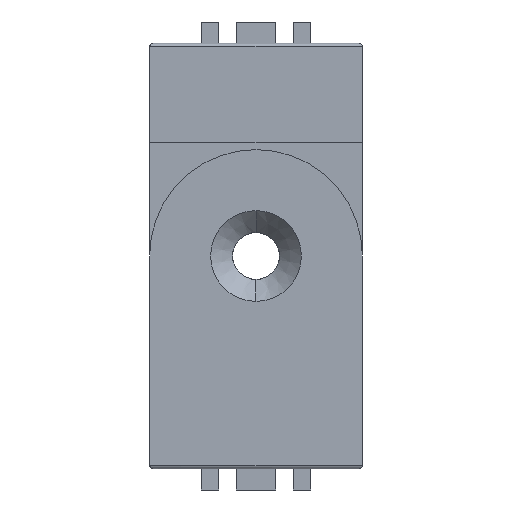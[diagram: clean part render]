
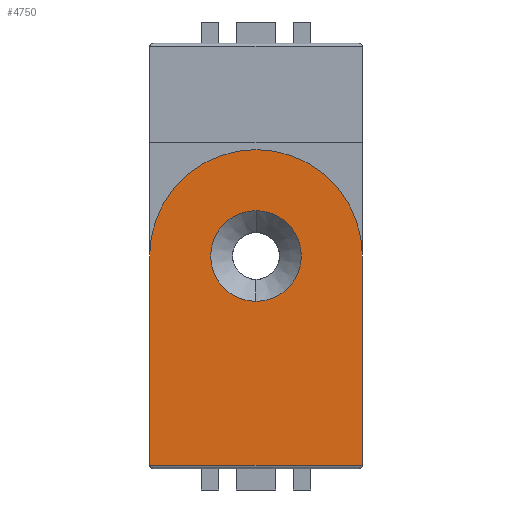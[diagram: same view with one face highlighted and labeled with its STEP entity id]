
A CAD part, left-side view. The second image highlights one B-rep face of the part: STEP entity #4750.
In plain terms, the highlighted planar face has unit normal (-1, 0, 0).
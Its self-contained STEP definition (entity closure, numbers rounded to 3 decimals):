
#95 = EDGE_CURVE ( 'NONE', #891, #4570, #1515, .T. ) ;
#219 = VECTOR ( 'NONE', #1197, 1000. ) ;
#226 = ORIENTED_EDGE ( 'NONE', *, *, #3434, .F. ) ;
#415 = CARTESIAN_POINT ( 'NONE',  ( -11.054, 0.764, 40.5 ) ) ;
#427 = DIRECTION ( 'NONE',  ( -1., 0., 0. ) ) ;
#441 = CARTESIAN_POINT ( 'NONE',  ( -11.054, -14.236, 11. ) ) ;
#479 = VERTEX_POINT ( 'NONE', #1235 ) ;
#510 = PLANE ( 'NONE',  #4383 ) ;
#554 = VERTEX_POINT ( 'NONE', #2904 ) ;
#632 = VERTEX_POINT ( 'NONE', #3201 ) ;
#891 = VERTEX_POINT ( 'NONE', #1680 ) ;
#965 = CARTESIAN_POINT ( 'NONE',  ( -11.054, 0.764, 40.5 ) ) ;
#1000 = CARTESIAN_POINT ( 'NONE',  ( -11.054, 0.764, 46.9 ) ) ;
#1197 = DIRECTION ( 'NONE',  ( 0., -1., 0. ) ) ;
#1235 = CARTESIAN_POINT ( 'NONE',  ( -11.054, 15.764, 40.5 ) ) ;
#1509 = VECTOR ( 'NONE', #3166, 1000. ) ;
#1515 = CIRCLE ( 'NONE', #4563, 6.4 ) ;
#1680 = CARTESIAN_POINT ( 'NONE',  ( -11.054, 0.764, 34.1 ) ) ;
#1751 = CARTESIAN_POINT ( 'NONE',  ( -11.054, -14.236, 11. ) ) ;
#1990 = EDGE_LOOP ( 'NONE', ( #3535, #4572, #2650, #226 ) ) ;
#2001 = ORIENTED_EDGE ( 'NONE', *, *, #2320, .F. ) ;
#2244 = EDGE_LOOP ( 'NONE', ( #2001, #2857 ) ) ;
#2303 = LINE ( 'NONE', #1751, #219 ) ;
#2320 = EDGE_CURVE ( 'NONE', #4570, #891, #2407, .T. ) ;
#2407 = CIRCLE ( 'NONE', #4260, 6.4 ) ;
#2650 = ORIENTED_EDGE ( 'NONE', *, *, #5144, .T. ) ;
#2765 = VECTOR ( 'NONE', #3323, 1000. ) ;
#2857 = ORIENTED_EDGE ( 'NONE', *, *, #95, .F. ) ;
#2904 = CARTESIAN_POINT ( 'NONE',  ( -11.054, -14.236, 40.5 ) ) ;
#2933 = EDGE_CURVE ( 'NONE', #632, #3770, #2303, .T. ) ;
#3166 = DIRECTION ( 'NONE',  ( 0., 0., 1. ) ) ;
#3201 = CARTESIAN_POINT ( 'NONE',  ( -11.054, 15.764, 11. ) ) ;
#3323 = DIRECTION ( 'NONE',  ( 0., 0., 1. ) ) ;
#3434 = EDGE_CURVE ( 'NONE', #479, #554, #3689, .T. ) ;
#3535 = ORIENTED_EDGE ( 'NONE', *, *, #5005, .F. ) ;
#3689 = CIRCLE ( 'NONE', #3797, 15. ) ;
#3703 = FACE_OUTER_BOUND ( 'NONE', #1990, .T. ) ;
#3706 = CARTESIAN_POINT ( 'NONE',  ( -11.054, 15.764, 10.5 ) ) ;
#3734 = DIRECTION ( 'NONE',  ( 0., 0., 1. ) ) ;
#3770 = VERTEX_POINT ( 'NONE', #441 ) ;
#3797 = AXIS2_PLACEMENT_3D ( 'NONE', #415, #5189, #4635 ) ;
#3859 = CARTESIAN_POINT ( 'NONE',  ( -11.054, -14.236, 10.5 ) ) ;
#4108 = FACE_BOUND ( 'NONE', #2244, .T. ) ;
#4190 = DIRECTION ( 'NONE',  ( 0., -1., 0. ) ) ;
#4244 = LINE ( 'NONE', #3706, #1509 ) ;
#4260 = AXIS2_PLACEMENT_3D ( 'NONE', #965, #427, #5206 ) ;
#4276 = DIRECTION ( 'NONE',  ( -1., 0., 0. ) ) ;
#4383 = AXIS2_PLACEMENT_3D ( 'NONE', #5286, #4728, #4190 ) ;
#4397 = LINE ( 'NONE', #3859, #2765 ) ;
#4563 = AXIS2_PLACEMENT_3D ( 'NONE', #4813, #4276, #3734 ) ;
#4570 = VERTEX_POINT ( 'NONE', #1000 ) ;
#4572 = ORIENTED_EDGE ( 'NONE', *, *, #2933, .T. ) ;
#4635 = DIRECTION ( 'NONE',  ( 0., 1., 0. ) ) ;
#4728 = DIRECTION ( 'NONE',  ( 1., 0., 0. ) ) ;
#4750 = ADVANCED_FACE ( 'NONE', ( #4108, #3703 ), #510, .F. ) ;
#4813 = CARTESIAN_POINT ( 'NONE',  ( -11.054, 0.764, 40.5 ) ) ;
#5005 = EDGE_CURVE ( 'NONE', #632, #479, #4244, .T. ) ;
#5144 = EDGE_CURVE ( 'NONE', #3770, #554, #4397, .T. ) ;
#5189 = DIRECTION ( 'NONE',  ( 1., 0., 0. ) ) ;
#5206 = DIRECTION ( 'NONE',  ( 0., 0., 1. ) ) ;
#5286 = CARTESIAN_POINT ( 'NONE',  ( -11.054, 15.764, 10.5 ) ) ;
